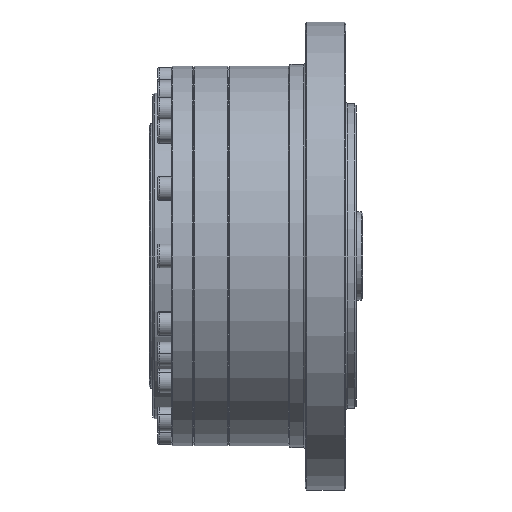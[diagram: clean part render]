
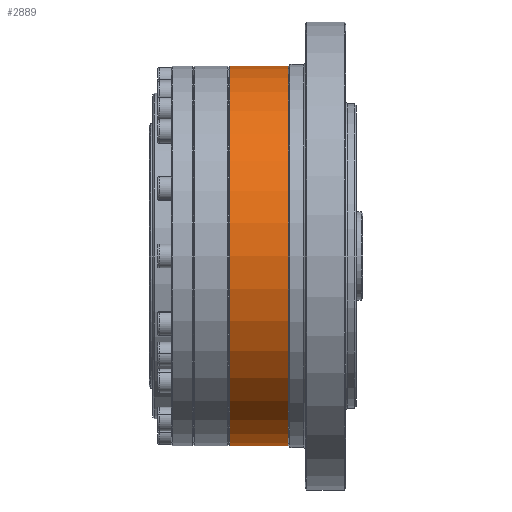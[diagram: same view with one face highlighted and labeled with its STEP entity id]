
A CAD part, front view. The second image highlights one B-rep face of the part: STEP entity #2889.
In plain terms, the highlighted cylindrical face has radius 56 mm (diameter 112 mm), a partial arc.
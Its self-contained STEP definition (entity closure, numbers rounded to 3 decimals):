
#549 = CARTESIAN_POINT ( 'NONE',  ( 63.433, 0., -56. ) ) ;
#1425 = CARTESIAN_POINT ( 'NONE',  ( 25.726, 0., 0. ) ) ;
#2313 = ORIENTED_EDGE ( 'NONE', *, *, #9037, .F. ) ;
#2620 = LINE ( 'NONE', #549, #6934 ) ;
#2889 = ADVANCED_FACE ( 'NONE', ( #23025 ), #16787, .T. ) ;
#3552 = DIRECTION ( 'NONE',  ( 0., 0., -1. ) ) ;
#4957 = EDGE_LOOP ( 'NONE', ( #5199, #25770, #15933, #2313 ) ) ;
#5199 = ORIENTED_EDGE ( 'NONE', *, *, #8209, .F. ) ;
#5487 = DIRECTION ( 'NONE',  ( 1., 0., 0. ) ) ;
#6934 = VECTOR ( 'NONE', #13259, 1000. ) ;
#6999 = CARTESIAN_POINT ( 'NONE',  ( 42.926, 0., 56. ) ) ;
#7018 = DIRECTION ( 'NONE',  ( 1., 0., 0. ) ) ;
#7853 = LINE ( 'NONE', #23930, #12852 ) ;
#8209 = EDGE_CURVE ( 'NONE', #25379, #17305, #7853, .T. ) ;
#9037 = EDGE_CURVE ( 'NONE', #17305, #18267, #10495, .T. ) ;
#10268 = CARTESIAN_POINT ( 'NONE',  ( 63.433, 0., 0. ) ) ;
#10495 = CIRCLE ( 'NONE', #21195, 56. ) ;
#11084 = VERTEX_POINT ( 'NONE', #17450 ) ;
#12852 = VECTOR ( 'NONE', #7018, 1000. ) ;
#13259 = DIRECTION ( 'NONE',  ( 1., 0., 0. ) ) ;
#15933 = ORIENTED_EDGE ( 'NONE', *, *, #26561, .T. ) ;
#16272 = DIRECTION ( 'NONE',  ( 1., 0., 0. ) ) ;
#16336 = EDGE_CURVE ( 'NONE', #25379, #11084, #19154, .T. ) ;
#16560 = DIRECTION ( 'NONE',  ( 1., 0., 0. ) ) ;
#16787 = CYLINDRICAL_SURFACE ( 'NONE', #26268, 56. ) ;
#16833 = CARTESIAN_POINT ( 'NONE',  ( 42.926, 0., -56. ) ) ;
#17305 = VERTEX_POINT ( 'NONE', #6999 ) ;
#17450 = CARTESIAN_POINT ( 'NONE',  ( 25.726, 0., -56. ) ) ;
#18183 = CARTESIAN_POINT ( 'NONE',  ( 42.926, 0., 0. ) ) ;
#18267 = VERTEX_POINT ( 'NONE', #16833 ) ;
#19154 = CIRCLE ( 'NONE', #23268, 56. ) ;
#20295 = DIRECTION ( 'NONE',  ( 0., 0., -1. ) ) ;
#21195 = AXIS2_PLACEMENT_3D ( 'NONE', #18183, #5487, #20295 ) ;
#23025 = FACE_OUTER_BOUND ( 'NONE', #4957, .T. ) ;
#23268 = AXIS2_PLACEMENT_3D ( 'NONE', #1425, #16272, #3552 ) ;
#23814 = CARTESIAN_POINT ( 'NONE',  ( 25.726, 0., 56. ) ) ;
#23930 = CARTESIAN_POINT ( 'NONE',  ( 63.433, 0., 56. ) ) ;
#24923 = DIRECTION ( 'NONE',  ( 0., 0., -1. ) ) ;
#25379 = VERTEX_POINT ( 'NONE', #23814 ) ;
#25770 = ORIENTED_EDGE ( 'NONE', *, *, #16336, .T. ) ;
#26268 = AXIS2_PLACEMENT_3D ( 'NONE', #10268, #16560, #24923 ) ;
#26561 = EDGE_CURVE ( 'NONE', #11084, #18267, #2620, .T. ) ;
